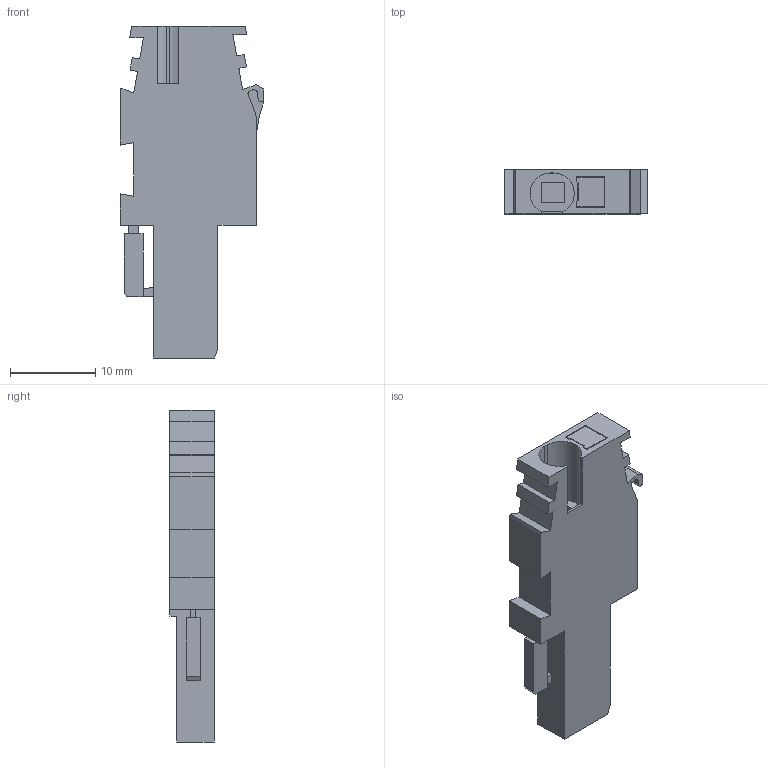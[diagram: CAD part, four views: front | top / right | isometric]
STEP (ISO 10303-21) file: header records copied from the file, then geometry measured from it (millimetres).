
FILE_DESCRIPTION(('Open CASCADE Model'),'2;1');
FILE_NAME('Open CASCADE Shape Model','2024-03-13T15:36:07',('Author'),( 'Open CASCADE'),'Open CASCADE STEP processor 6.5','Open CASCADE 6.5' ,'Unknown');
FILE_SCHEMA(('AUTOMOTIVE_DESIGN { 1 0 10303 214 1 1 1 1 }'));
Length unit declared in the file: millimetre
Products named in the file (109): CADSOFTTOOLS 1; CADSOFTTOOLS 1.1; CADSOFTTOOLS 1.2; CADSOFTTOOLS 1.3; CADSOFTTOOLS 1.4; CADSOFTTOOLS 1.5; CADSOFTTOOLS 1.6; CADSOFTTOOLS 1.7; CADSOFTTOOLS 1.8; CADSOFTTOOLS 1.9; CADSOFTTOOLS 1.10; CADSOFTTOOLS 1.11; CADSOFTTOOLS 1.12; CADSOFTTOOLS 1.13; CADSOFTTOOLS 1.14; CADSOFTTOOLS 1.15; CADSOFTTOOLS 1.16; CADSOFTTOOLS 1.17; CADSOFTTOOLS 1.18; CADSOFTTOOLS 1.19; CADSOFTTOOLS 1.20; CADSOFTTOOLS 1.21; CADSOFTTOOLS 1.22; CADSOFTTOOLS 1.23; CADSOFTTOOLS 1.24; CADSOFTTOOLS 1.25; CADSOFTTOOLS 1.26; CADSOFTTOOLS 1.27; CADSOFTTOOLS 1.28; CADSOFTTOOLS 1.29; CADSOFTTOOLS 1.30; CADSOFTTOOLS 1.31; CADSOFTTOOLS 1.32; CADSOFTTOOLS 1.33; CADSOFTTOOLS 1.34; CADSOFTTOOLS 1.35; CADSOFTTOOLS 1.36; CADSOFTTOOLS 1.37; CADSOFTTOOLS 1.38; CADSOFTTOOLS 1.39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
Assembly tree (108 placements, depth 2):
  CADSOFTTOOLS 1
    CADSOFTTOOLS 1.1
    CADSOFTTOOLS 1.2
    CADSOFTTOOLS 1.3
    CADSOFTTOOLS 1.4
    CADSOFTTOOLS 1.5
    CADSOFTTOOLS 1.6
    CADSOFTTOOLS 1.7
    CADSOFTTOOLS 1.8
    CADSOFTTOOLS 1.9
    CADSOFTTOOLS 1.10
    CADSOFTTOOLS 1.11
    CADSOFTTOOLS 1.12
    CADSOFTTOOLS 1.13
    CADSOFTTOOLS 1.14
    CADSOFTTOOLS 1.15
    CADSOFTTOOLS 1.16
    CADSOFTTOOLS 1.17
    CADSOFTTOOLS 1.18
    CADSOFTTOOLS 1.19
    CADSOFTTOOLS 1.20
    CADSOFTTOOLS 1.21
    CADSOFTTOOLS 1.22
    CADSOFTTOOLS 1.23
    CADSOFTTOOLS 1.24
    CADSOFTTOOLS 1.25
    CADSOFTTOOLS 1.26
    CADSOFTTOOLS 1.27
    CADSOFTTOOLS 1.28
    CADSOFTTOOLS 1.29
    CADSOFTTOOLS 1.30
    CADSOFTTOOLS 1.31
    CADSOFTTOOLS 1.32
    CADSOFTTOOLS 1.33
    CADSOFTTOOLS 1.34
    CADSOFTTOOLS 1.35
    CADSOFTTOOLS 1.36
    CADSOFTTOOLS 1.37
    CADSOFTTOOLS 1.38
    CADSOFTTOOLS 1.39
    CADSOFTTOOLS 1.40
    CADSOFTTOOLS 1.41
    CADSOFTTOOLS 1.42
    CADSOFTTOOLS 1.43
    CADSOFTTOOLS 1.44
    CADSOFTTOOLS 1.45
    CADSOFTTOOLS 1.46
    CADSOFTTOOLS 1.47
    CADSOFTTOOLS 1.48
    CADSOFTTOOLS 1.49
    CADSOFTTOOLS 1.50
    CADSOFTTOOLS 1.51
    CADSOFTTOOLS 1.52
    CADSOFTTOOLS 1.53
    CADSOFTTOOLS 1.54
    CADSOFTTOOLS 1.55
    CADSOFTTOOLS 1.56
    CADSOFTTOOLS 1.57
    CADSOFTTOOLS 1.58
    CADSOFTTOOLS 1.59
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Bounding box: 16.9 x 5.2 x 39 mm (x, y, z)
Surface area: 1933.5 mm2 (no closed solid volume)
Topology: 0 solids, 108 shells, 108 faces, 602 edges, 602 vertices
Faces by surface type: plane 97, cylinder 11
Entity records: 12148 total; most frequent: CARTESIAN_POINT 2182, DIRECTION 1619, LINE 1088, VECTOR 1088, ORIENTED_EDGE 602, EDGE_CURVE 602, VERTEX_POINT 602, SURFACE_CURVE 602
